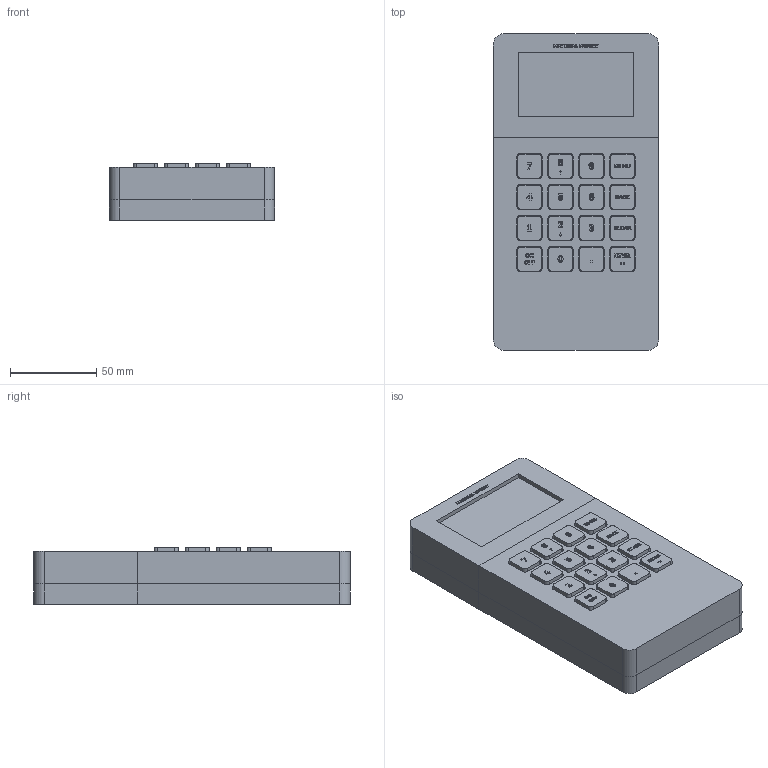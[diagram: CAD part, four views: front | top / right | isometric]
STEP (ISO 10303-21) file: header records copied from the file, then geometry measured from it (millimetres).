
FILE_DESCRIPTION(('Open CASCADE Model'),'2;1');
FILE_NAME('Open CASCADE Shape Model','2026-10-27T14:56:12',('Author'),( 'Open CASCADE'),'Open CASCADE STEP processor 7.8','Open CASCADE 7.8' ,'Unknown');
FILE_SCHEMA(('AUTOMOTIVE_DESIGN { 1 0 10303 214 1 1 1 1 }'));
Length unit declared in the file: millimetre
Products named in the file (27): material_weight_calculator_r2; battery_cover; keypad_backing; keypad_guide; display_cradle; button_r1c1_7; button_r1c2_8; button_r1c3_9; button_r1c4_menu; button_r2c1_4; button_r2c2_5; button_r2c3_6; button_r2c4_back; button_r3c1_1; button_r3c2_2; button_r3c3_3; button_r3c4_clear; button_r4c1_on; button_r4c2_0; button_r4c3_decimal; button_r4c4_enter; mars_front_upper; mars_front_lower; mars_rear_upper; mars_rear_lower; LCD_reference_not_for_printing; adapter_PCB_reference_not_for_printing
Assembly tree (26 placements, depth 2):
  material_weight_calculator_r2
    battery_cover
    keypad_backing
    keypad_guide
    display_cradle
    button_r1c1_7
    button_r1c2_8
    button_r1c3_9
    button_r1c4_menu
    button_r2c1_4
    button_r2c2_5
    button_r2c3_6
    button_r2c4_back
    button_r3c1_1
    button_r3c2_2
    button_r3c3_3
    button_r3c4_clear
    button_r4c1_on
    button_r4c2_0
    button_r4c3_decimal
    button_r4c4_enter
    mars_front_upper
    mars_front_lower
    mars_rear_upper
    mars_rear_lower
    LCD_reference_not_for_printing
    adapter_PCB_reference_not_for_printing
Bounding box: 96 x 184 x 33 mm (x, y, z)
Volume: 186566.3 mm3; surface area: 167742 mm2
Topology: 26 solids, 26 shells, 2155 faces, 5796 edges, 3864 vertices
Faces by surface type: plane 1411, cylinder 432, extrusion 312
Full cylindrical faces by diameter (mm): 2.9 x24, 3 x2, 5.2 x4, 6.4 x4, 6.8 x2, 8 x4, 8.2 x6
Entity records: 147602 total; most frequent: CARTESIAN_POINT 36837, DIRECTION 17995, VECTOR 11920, LINE 11608, ORIENTED_EDGE 11592, PCURVE 11592, DEFINITIONAL_REPRESENTATION 11592, EDGE_CURVE 5796
